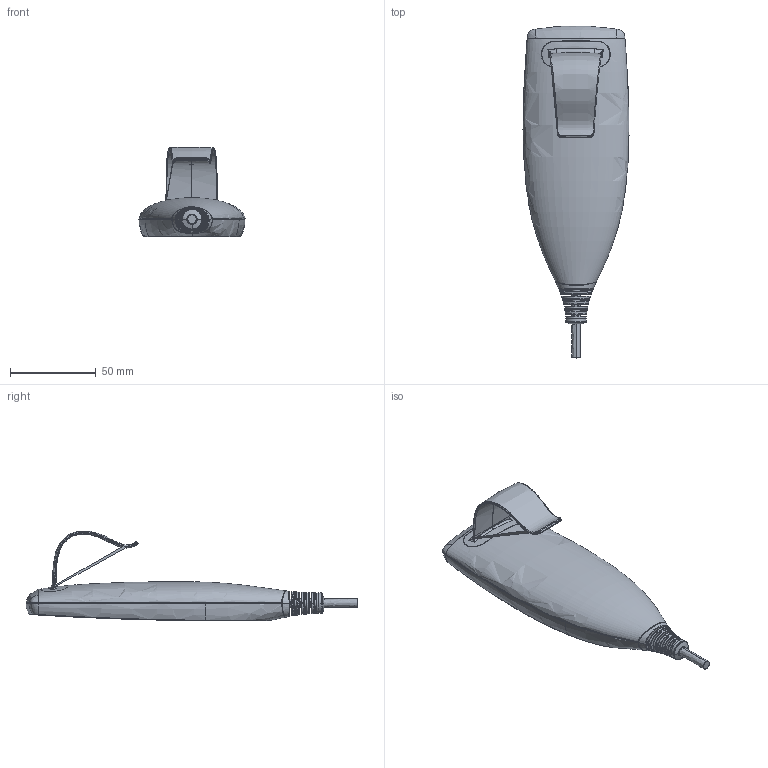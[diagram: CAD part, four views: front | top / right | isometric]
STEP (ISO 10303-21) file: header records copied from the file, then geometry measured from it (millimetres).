
FILE_DESCRIPTION(/* description */ (''),/* implementation_level */ '2;1');
FILE_NAME(/* name */ 'TH26',/* time_stamp */ '2015-03-02T17:32:18+08:00',/* author */ (''),/* organization */ (''),/* preprocessor_version */ 'ST-DEVELOPER v15',/* originating_system */ '',/* authorisation */ '');
FILE_SCHEMA (('AUTOMOTIVE_DESIGN_CC2'));
Length unit declared in the file: millimetre
Products named in the file (1): Document
Bounding box: 61.84 x 193.64 x 52.31 mm (x, y, z)
Surface area: 61528 mm2 (no closed solid volume)
Topology: 0 solids, 483 shells, 483 faces, 1385 edges, 1379 vertices
Faces by surface type: bspline 483
Entity records: 96712 total; most frequent: CARTESIAN_POINT 79329, B_SPLINE_CURVE_WITH_KNOTS 2156, ORIENTED_EDGE 1379, PCURVE 1379, DEFINITIONAL_REPRESENTATION 1379, SURFACE_CURVE 1379, EDGE_CURVE 1379, VERTEX_POINT 1379
